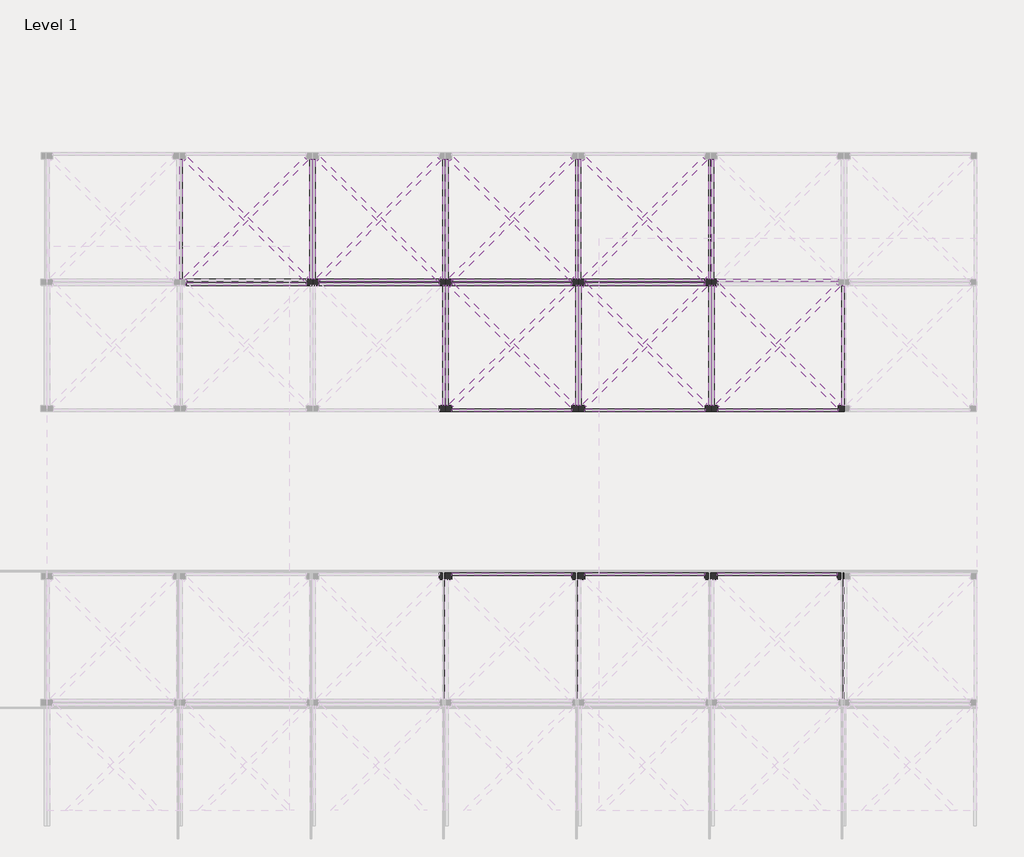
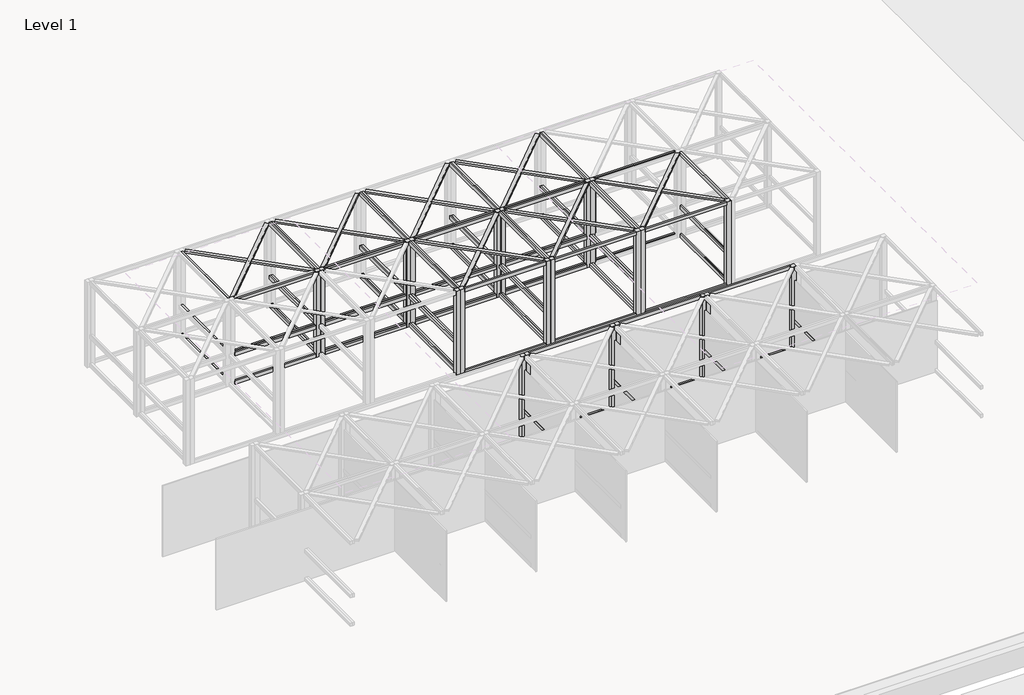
# One storey, part 20 of 32: 102 beams, 30 columns.
"""IFC4 building model written with IfcOpenShell, lengths in millimetres."""

from ifc_helpers import new_model, si_unit, origin, place, context, project, spatial, transform, mapped, element, save
from components import timber_gauged_nz_100_x_50_a05adcf6, timber_gauged_nz_100_x_50_e4b9d06e, timber_gauged_nz_100_x_50_66b63d81, timber_gauged_nz_100_x_50_718b6390, timber_gauged_nz_100_x_50_7774ab14, timber_gauged_nz_100_x_50_be6c7ca1, timber_gauged_nz_100_x_50_6be5a70a, timber_gauged_nz_100_x_50_7b7bee40, timber_gauged_nz_100_x_50_flat_212af973, timber_gauged_nz_100_x_50_flat_8016973c, column_timber_m_114x114_3b5997c2

model = new_model("IFC4")

# Units and contexts
model_context = context("Model", 3, world=origin())
ifc_project = project(units=[si_unit("LENGTHUNIT", "METRE", prefix="MILLI")], contexts=[model_context])

# Site, building, storey
site = spatial("IfcSite", under=ifc_project)
building = spatial("IfcBuilding", under=site)
storey = spatial("IfcBuildingStorey", under=building, Name="Level 1", Elevation=2800.0)

# Beams
placement = place(None, origin())
timber_gauged_nz_100_x_50_shape = timber_gauged_nz_100_x_50_a05adcf6(model_context)
element("IfcBeam", 1, ObjectType="Timber Gauged (NZ) : 100 x 50", at=placement, inside=storey, context=model_context, shape_type="MappedRepresentation", body=[
    mapped(timber_gauged_nz_100_x_50_shape, transform((-72399.6556755, -17511.9011548, 2847.0), x_axis=(1.0, 0.0, 0.0), y_axis=(0.0, 1.0, 0.0), z_axis=(0.0, 0.0, 1.0))),
])
element("IfcBeam", 2, ObjectType="Timber Gauged (NZ) : 100 x 50", at=placement, inside=storey, context=model_context, shape_type="MappedRepresentation", body=[
    mapped(timber_gauged_nz_100_x_50_shape, transform((-69999.6556755, -17511.9011548, 2847.0), x_axis=(1.0, 0.0, 0.0), y_axis=(0.0, 1.0, 0.0), z_axis=(0.0, 0.0, 1.0))),
])
element("IfcBeam", 3, ObjectType="Timber Gauged (NZ) : 100 x 50", at=placement, inside=storey, context=model_context, shape_type="MappedRepresentation", body=[
    mapped(timber_gauged_nz_100_x_50_shape, transform((-67595.3056755, -17511.9011548, 2847.0), x_axis=(1.0, 0.0, 0.0), y_axis=(0.0, 1.0, 0.0), z_axis=(0.0, 0.0, 1.0))),
])
element("IfcBeam", 4, ObjectType="Timber Gauged (NZ) : 100 x 50", at=placement, inside=storey, context=model_context, shape_type="MappedRepresentation", body=[
    mapped(timber_gauged_nz_100_x_50_shape, transform((-65190.9556755, -17511.9011548, 2847.0), x_axis=(1.0, 0.0, 0.0), y_axis=(0.0, 1.0, 0.0), z_axis=(0.0, 0.0, 1.0))),
])
element("IfcBeam", 5, ObjectType="Timber Gauged (NZ) : 100 x 50", at=placement, inside=storey, context=model_context, shape_type="MappedRepresentation", body=[
    mapped(timber_gauged_nz_100_x_50_shape, transform((-67599.6556755, -17582.1175809, 2847.0), x_axis=(-1.0, 0.0, 0.0), y_axis=(0.0, -1.0, 0.0), z_axis=(0.0, 0.0, 1.0))),
])
element("IfcBeam", 6, ObjectType="Timber Gauged (NZ) : 100 x 50", at=placement, inside=storey, context=model_context, shape_type="MappedRepresentation", body=[
    mapped(timber_gauged_nz_100_x_50_shape, transform((-69999.6556755, -17582.1175809, 2847.0), x_axis=(-1.0, 0.0, 0.0), y_axis=(0.0, -1.0, 0.0), z_axis=(0.0, 0.0, 1.0))),
])
element("IfcBeam", 7, ObjectType="Timber Gauged (NZ) : 100 x 50", at=placement, inside=storey, context=model_context, shape_type="MappedRepresentation", body=[
    mapped(timber_gauged_nz_100_x_50_shape, transform((-72399.6556755, -17582.1175809, 2847.0), x_axis=(-1.0, 0.0, 0.0), y_axis=(0.0, -1.0, 0.0), z_axis=(0.0, 0.0, 1.0))),
])
element("IfcBeam", 8, ObjectType="Timber Gauged (NZ) : 100 x 50", at=placement, inside=storey, context=model_context, shape_type="MappedRepresentation", body=[
    mapped(timber_gauged_nz_100_x_50_shape, transform((-74804.0056755, -17582.1175809, 2847.0), x_axis=(-1.0, 0.0, 0.0), y_axis=(0.0, -1.0, 0.0), z_axis=(0.0, 0.0, 1.0))),
])
timber_gauged_nz_100_x_50_2_shape = timber_gauged_nz_100_x_50_e4b9d06e(model_context)
element("IfcBeam", 9, ObjectType="Timber Gauged (NZ) : 100 x 50", at=placement, inside=storey, context=model_context, shape_type="MappedRepresentation", body=[
    mapped(timber_gauged_nz_100_x_50_2_shape, transform((-65190.8306755, -22829.1175809, 2847.0), x_axis=(-1.0, 0.0, 0.0), y_axis=(0.0, -1.0, 0.0), z_axis=(0.0, 0.0, 1.0))),
])
element("IfcBeam", 10, ObjectType="Timber Gauged (NZ) : 100 x 50", at=placement, inside=storey, context=model_context, shape_type="MappedRepresentation", body=[
    mapped(timber_gauged_nz_100_x_50_2_shape, transform((-67586.4806755, -22829.1175809, 2847.0), x_axis=(-1.0, 0.0, 0.0), y_axis=(0.0, -1.0, 0.0), z_axis=(0.0, 0.0, 1.0))),
])
element("IfcBeam", 11, ObjectType="Timber Gauged (NZ) : 100 x 50", at=placement, inside=storey, context=model_context, shape_type="MappedRepresentation", body=[
    mapped(timber_gauged_nz_100_x_50_2_shape, transform((-69986.4806755, -22829.1175809, 2847.0), x_axis=(-1.0, 0.0, 0.0), y_axis=(0.0, -1.0, 0.0), z_axis=(0.0, 0.0, 1.0))),
])
element("IfcBeam", 12, ObjectType="Timber Gauged (NZ) : 100 x 50", at=placement, inside=storey, context=model_context, shape_type="MappedRepresentation", body=[
    mapped(timber_gauged_nz_100_x_50_2_shape, transform((-70012.8306755, -19864.9011548, 2847.0), x_axis=(1.0, 0.0, 0.0), y_axis=(0.0, 1.0, 0.0), z_axis=(0.0, 0.0, 1.0))),
])
element("IfcBeam", 13, ObjectType="Timber Gauged (NZ) : 100 x 50", at=placement, inside=storey, context=model_context, shape_type="MappedRepresentation", body=[
    mapped(timber_gauged_nz_100_x_50_2_shape, transform((-67608.4806755, -19864.9011548, 2847.0), x_axis=(1.0, 0.0, 0.0), y_axis=(0.0, 1.0, 0.0), z_axis=(0.0, 0.0, 1.0))),
])
element("IfcBeam", 14, ObjectType="Timber Gauged (NZ) : 100 x 50", at=placement, inside=storey, context=model_context, shape_type="MappedRepresentation", body=[
    mapped(timber_gauged_nz_100_x_50_2_shape, transform((-65204.1306755, -19864.9011548, 2847.0), x_axis=(1.0, 0.0, 0.0), y_axis=(0.0, 1.0, 0.0), z_axis=(0.0, 0.0, 1.0))),
])
timber_gauged_nz_100_x_50_3_shape = timber_gauged_nz_100_x_50_66b63d81(model_context)
element("IfcBeam", 15, ObjectType="Timber Gauged (NZ) : 100 x 50", at=placement, inside=storey, context=model_context, shape_type="MappedRepresentation", body=[
    mapped(timber_gauged_nz_100_x_50_3_shape, transform((-71176.1556755, -18688.4011548, 2847.0), x_axis=(0.0, -1.0, 0.0), y_axis=(1.0, 0.0, 0.0), z_axis=(0.0, 0.0, 1.0))),
])
element("IfcBeam", 16, ObjectType="Timber Gauged (NZ) : 100 x 50", at=placement, inside=storey, context=model_context, shape_type="MappedRepresentation", body=[
    mapped(timber_gauged_nz_100_x_50_3_shape, transform((-68771.8056755, -18688.4011548, 2847.0), x_axis=(0.0, -1.0, 0.0), y_axis=(1.0, 0.0, 0.0), z_axis=(0.0, 0.0, 1.0))),
])
element("IfcBeam", 17, ObjectType="Timber Gauged (NZ) : 100 x 50", at=placement, inside=storey, context=model_context, shape_type="MappedRepresentation", body=[
    mapped(timber_gauged_nz_100_x_50_3_shape, transform((-66367.4556755, -18688.4011548, 2847.0), x_axis=(0.0, -1.0, 0.0), y_axis=(1.0, 0.0, 0.0), z_axis=(0.0, 0.0, 1.0))),
])
element("IfcBeam", 18, ObjectType="Timber Gauged (NZ) : 100 x 50", at=placement, inside=storey, context=model_context, shape_type="MappedRepresentation", body=[
    mapped(timber_gauged_nz_100_x_50_3_shape, transform((-66423.1556755, -16405.6175809, 2847.0), x_axis=(0.0, 1.0, 0.0), y_axis=(-1.0, 0.0, 0.0), z_axis=(0.0, 0.0, 1.0))),
])
element("IfcBeam", 19, ObjectType="Timber Gauged (NZ) : 100 x 50", at=placement, inside=storey, context=model_context, shape_type="MappedRepresentation", body=[
    mapped(timber_gauged_nz_100_x_50_3_shape, transform((-68823.1556755, -16405.6175809, 2847.0), x_axis=(0.0, 1.0, 0.0), y_axis=(-1.0, 0.0, 0.0), z_axis=(0.0, 0.0, 1.0))),
])
element("IfcBeam", 20, ObjectType="Timber Gauged (NZ) : 100 x 50", at=placement, inside=storey, context=model_context, shape_type="MappedRepresentation", body=[
    mapped(timber_gauged_nz_100_x_50_3_shape, transform((-71223.1556755, -16405.6175809, 2847.0), x_axis=(0.0, 1.0, 0.0), y_axis=(-1.0, 0.0, 0.0), z_axis=(0.0, 0.0, 1.0))),
])
element("IfcBeam", 21, ObjectType="Timber Gauged (NZ) : 100 x 50", at=placement, inside=storey, context=model_context, shape_type="MappedRepresentation", body=[
    mapped(timber_gauged_nz_100_x_50_3_shape, transform((-73627.5056755, -16405.6175809, 2847.0), x_axis=(0.0, 1.0, 0.0), y_axis=(-1.0, 0.0, 0.0), z_axis=(0.0, 0.0, 1.0))),
])
element("IfcBeam", 22, ObjectType="Timber Gauged (NZ) : 100 x 50", at=placement, inside=storey, context=model_context, shape_type="MappedRepresentation", body=[
    mapped(timber_gauged_nz_100_x_50_3_shape, transform((-71223.1556755, -18688.4011548, 2847.0), x_axis=(0.0, -1.0, 0.0), y_axis=(1.0, 0.0, 0.0), z_axis=(0.0, 0.0, 1.0))),
])
element("IfcBeam", 23, ObjectType="Timber Gauged (NZ) : 100 x 50", at=placement, inside=storey, context=model_context, shape_type="MappedRepresentation", body=[
    mapped(timber_gauged_nz_100_x_50_3_shape, transform((-68823.1556755, -18688.4011548, 2847.0), x_axis=(0.0, -1.0, 0.0), y_axis=(1.0, 0.0, 0.0), z_axis=(0.0, 0.0, 1.0))),
])
element("IfcBeam", 24, ObjectType="Timber Gauged (NZ) : 100 x 50", at=placement, inside=storey, context=model_context, shape_type="MappedRepresentation", body=[
    mapped(timber_gauged_nz_100_x_50_3_shape, transform((-66418.8056755, -18688.4011548, 2847.0), x_axis=(0.0, -1.0, 0.0), y_axis=(1.0, 0.0, 0.0), z_axis=(0.0, 0.0, 1.0))),
])
element("IfcBeam", 25, ObjectType="Timber Gauged (NZ) : 100 x 50", at=placement, inside=storey, context=model_context, shape_type="MappedRepresentation", body=[
    mapped(timber_gauged_nz_100_x_50_3_shape, transform((-64014.4556755, -18688.4011548, 2847.0), x_axis=(0.0, -1.0, 0.0), y_axis=(1.0, 0.0, 0.0), z_axis=(0.0, 0.0, 1.0))),
])
element("IfcBeam", 26, ObjectType="Timber Gauged (NZ) : 100 x 50", at=placement, inside=storey, context=model_context, shape_type="MappedRepresentation", body=[
    mapped(timber_gauged_nz_100_x_50_3_shape, transform((-66380.5056755, -16405.6175809, 2847.0), x_axis=(0.0, 1.0, 0.0), y_axis=(-1.0, 0.0, 0.0), z_axis=(0.0, 0.0, 1.0))),
])
element("IfcBeam", 27, ObjectType="Timber Gauged (NZ) : 100 x 50", at=placement, inside=storey, context=model_context, shape_type="MappedRepresentation", body=[
    mapped(timber_gauged_nz_100_x_50_3_shape, transform((-68776.1556755, -16405.6175809, 2847.0), x_axis=(0.0, 1.0, 0.0), y_axis=(-1.0, 0.0, 0.0), z_axis=(0.0, 0.0, 1.0))),
])
element("IfcBeam", 28, ObjectType="Timber Gauged (NZ) : 100 x 50", at=placement, inside=storey, context=model_context, shape_type="MappedRepresentation", body=[
    mapped(timber_gauged_nz_100_x_50_3_shape, transform((-71176.1556755, -16405.6175809, 2847.0), x_axis=(0.0, 1.0, 0.0), y_axis=(-1.0, 0.0, 0.0), z_axis=(0.0, 0.0, 1.0))),
])
element("IfcBeam", 29, ObjectType="Timber Gauged (NZ) : 100 x 50", at=placement, inside=storey, context=model_context, shape_type="MappedRepresentation", body=[
    mapped(timber_gauged_nz_100_x_50_3_shape, transform((-73576.1556755, -16405.6175809, 2847.0), x_axis=(0.0, 1.0, 0.0), y_axis=(-1.0, 0.0, 0.0), z_axis=(0.0, 0.0, 1.0))),
])
element("IfcBeam", 30, ObjectType="Timber Gauged (NZ) : 100 x 50", at=placement, inside=storey, context=model_context, shape_type="MappedRepresentation", body=[
    mapped(timber_gauged_nz_100_x_50_3_shape, transform((-75980.5056755, -16405.6175809, 2847.0), x_axis=(0.0, 1.0, 0.0), y_axis=(-1.0, 0.0, 0.0), z_axis=(0.0, 0.0, 1.0))),
])
timber_gauged_nz_100_x_50_4_shape = timber_gauged_nz_100_x_50_718b6390(model_context)
element("IfcBeam", 31, ObjectType="Timber Gauged (NZ) : 100 x 50", at=placement, inside=storey, context=model_context, shape_type="MappedRepresentation", body=[
    mapped(timber_gauged_nz_100_x_50_4_shape, transform((-74807.5056755, -17511.9011548, 3653.0), x_axis=(1.0, 0.0, 0.0), y_axis=(0.0, 1.0, 0.0), z_axis=(0.0, 0.0, 1.0))),
])
element("IfcBeam", 32, ObjectType="Timber Gauged (NZ) : 100 x 50", at=placement, inside=storey, context=model_context, shape_type="MappedRepresentation", body=[
    mapped(timber_gauged_nz_100_x_50_4_shape, transform((-72407.5056755, -17511.9011548, 5153.0), x_axis=(1.0, 0.0, 0.0), y_axis=(0.0, 1.0, 0.0), z_axis=(0.0, 0.0, 1.0))),
])
element("IfcBeam", 33, ObjectType="Timber Gauged (NZ) : 100 x 50", at=placement, inside=storey, context=model_context, shape_type="MappedRepresentation", body=[
    mapped(timber_gauged_nz_100_x_50_4_shape, transform((-72407.5056755, -17511.9011548, 3653.0), x_axis=(1.0, 0.0, 0.0), y_axis=(0.0, 1.0, 0.0), z_axis=(0.0, 0.0, 1.0))),
])
element("IfcBeam", 34, ObjectType="Timber Gauged (NZ) : 100 x 50", at=placement, inside=storey, context=model_context, shape_type="MappedRepresentation", body=[
    mapped(timber_gauged_nz_100_x_50_4_shape, transform((-70007.5056755, -17511.9011548, 5153.0), x_axis=(1.0, 0.0, 0.0), y_axis=(0.0, 1.0, 0.0), z_axis=(0.0, 0.0, 1.0))),
])
element("IfcBeam", 35, ObjectType="Timber Gauged (NZ) : 100 x 50", at=placement, inside=storey, context=model_context, shape_type="MappedRepresentation", body=[
    mapped(timber_gauged_nz_100_x_50_4_shape, transform((-70007.5056755, -17511.9011548, 3653.0), x_axis=(1.0, 0.0, 0.0), y_axis=(0.0, 1.0, 0.0), z_axis=(0.0, 0.0, 1.0))),
])
element("IfcBeam", 36, ObjectType="Timber Gauged (NZ) : 100 x 50", at=placement, inside=storey, context=model_context, shape_type="MappedRepresentation", body=[
    mapped(timber_gauged_nz_100_x_50_4_shape, transform((-67603.1556755, -17511.9011548, 5153.0), x_axis=(1.0, 0.0, 0.0), y_axis=(0.0, 1.0, 0.0), z_axis=(0.0, 0.0, 1.0))),
])
element("IfcBeam", 37, ObjectType="Timber Gauged (NZ) : 100 x 50", at=placement, inside=storey, context=model_context, shape_type="MappedRepresentation", body=[
    mapped(timber_gauged_nz_100_x_50_4_shape, transform((-67603.1556755, -17511.9011548, 3653.0), x_axis=(1.0, 0.0, 0.0), y_axis=(0.0, 1.0, 0.0), z_axis=(0.0, 0.0, 1.0))),
])
element("IfcBeam", 38, ObjectType="Timber Gauged (NZ) : 100 x 50", at=placement, inside=storey, context=model_context, shape_type="MappedRepresentation", body=[
    mapped(timber_gauged_nz_100_x_50_4_shape, transform((-65198.8056755, -17511.9011548, 5153.0), x_axis=(1.0, 0.0, 0.0), y_axis=(0.0, 1.0, 0.0), z_axis=(0.0, 0.0, 1.0))),
])
element("IfcBeam", 39, ObjectType="Timber Gauged (NZ) : 100 x 50", at=placement, inside=storey, context=model_context, shape_type="MappedRepresentation", body=[
    mapped(timber_gauged_nz_100_x_50_4_shape, transform((-67591.8056755, -17582.1175809, 5153.0), x_axis=(-1.0, 0.0, 0.0), y_axis=(0.0, -1.0, 0.0), z_axis=(0.0, 0.0, 1.0))),
])
element("IfcBeam", 40, ObjectType="Timber Gauged (NZ) : 100 x 50", at=placement, inside=storey, context=model_context, shape_type="MappedRepresentation", body=[
    mapped(timber_gauged_nz_100_x_50_4_shape, transform((-67591.8056755, -17582.1175809, 3653.0), x_axis=(-1.0, 0.0, 0.0), y_axis=(0.0, -1.0, 0.0), z_axis=(0.0, 0.0, 1.0))),
])
element("IfcBeam", 41, ObjectType="Timber Gauged (NZ) : 100 x 50", at=placement, inside=storey, context=model_context, shape_type="MappedRepresentation", body=[
    mapped(timber_gauged_nz_100_x_50_4_shape, transform((-69991.8056755, -17582.1175809, 5153.0), x_axis=(-1.0, 0.0, 0.0), y_axis=(0.0, -1.0, 0.0), z_axis=(0.0, 0.0, 1.0))),
])
element("IfcBeam", 42, ObjectType="Timber Gauged (NZ) : 100 x 50", at=placement, inside=storey, context=model_context, shape_type="MappedRepresentation", body=[
    mapped(timber_gauged_nz_100_x_50_4_shape, transform((-69991.8056755, -17582.1175809, 3653.0), x_axis=(-1.0, 0.0, 0.0), y_axis=(0.0, -1.0, 0.0), z_axis=(0.0, 0.0, 1.0))),
])
element("IfcBeam", 43, ObjectType="Timber Gauged (NZ) : 100 x 50", at=placement, inside=storey, context=model_context, shape_type="MappedRepresentation", body=[
    mapped(timber_gauged_nz_100_x_50_4_shape, transform((-72391.8056755, -17582.1175809, 5153.0), x_axis=(-1.0, 0.0, 0.0), y_axis=(0.0, -1.0, 0.0), z_axis=(0.0, 0.0, 1.0))),
])
element("IfcBeam", 44, ObjectType="Timber Gauged (NZ) : 100 x 50", at=placement, inside=storey, context=model_context, shape_type="MappedRepresentation", body=[
    mapped(timber_gauged_nz_100_x_50_4_shape, transform((-72391.8056755, -17582.1175809, 3653.0), x_axis=(-1.0, 0.0, 0.0), y_axis=(0.0, -1.0, 0.0), z_axis=(0.0, 0.0, 1.0))),
])
element("IfcBeam", 45, ObjectType="Timber Gauged (NZ) : 100 x 50", at=placement, inside=storey, context=model_context, shape_type="MappedRepresentation", body=[
    mapped(timber_gauged_nz_100_x_50_4_shape, transform((-74796.1556755, -17582.1175809, 5153.0), x_axis=(-1.0, 0.0, 0.0), y_axis=(0.0, -1.0, 0.0), z_axis=(0.0, 0.0, 1.0))),
])
element("IfcBeam", 46, ObjectType="Timber Gauged (NZ) : 100 x 50", at=placement, inside=storey, context=model_context, shape_type="MappedRepresentation", body=[
    mapped(timber_gauged_nz_100_x_50_4_shape, transform((-74796.1556755, -17582.1175809, 3653.0), x_axis=(-1.0, 0.0, 0.0), y_axis=(0.0, -1.0, 0.0), z_axis=(0.0, 0.0, 1.0))),
])
timber_gauged_nz_100_x_50_5_shape = timber_gauged_nz_100_x_50_7774ab14(model_context)
element("IfcBeam", 47, ObjectType="Timber Gauged (NZ) : 100 x 50", at=placement, inside=storey, context=model_context, shape_type="MappedRepresentation", body=[
    mapped(timber_gauged_nz_100_x_50_5_shape, transform((-65208.6556755, -22829.1175809, 5153.0), x_axis=(-1.0, 0.0, 0.0), y_axis=(0.0, -1.0, 0.0), z_axis=(0.0, 0.0, 1.0))),
])
element("IfcBeam", 48, ObjectType="Timber Gauged (NZ) : 100 x 50", at=placement, inside=storey, context=model_context, shape_type="MappedRepresentation", body=[
    mapped(timber_gauged_nz_100_x_50_5_shape, transform((-67604.3056755, -22829.1175809, 5153.0), x_axis=(-1.0, 0.0, 0.0), y_axis=(0.0, -1.0, 0.0), z_axis=(0.0, 0.0, 1.0))),
])
element("IfcBeam", 49, ObjectType="Timber Gauged (NZ) : 100 x 50", at=placement, inside=storey, context=model_context, shape_type="MappedRepresentation", body=[
    mapped(timber_gauged_nz_100_x_50_5_shape, transform((-70004.3056755, -22829.1175809, 5153.0), x_axis=(-1.0, 0.0, 0.0), y_axis=(0.0, -1.0, 0.0), z_axis=(0.0, 0.0, 1.0))),
])
element("IfcBeam", 50, ObjectType="Timber Gauged (NZ) : 100 x 50", at=placement, inside=storey, context=model_context, shape_type="MappedRepresentation", body=[
    mapped(timber_gauged_nz_100_x_50_5_shape, transform((-69995.0056755, -19864.9011548, 5153.0), x_axis=(1.0, 0.0, 0.0), y_axis=(0.0, 1.0, 0.0), z_axis=(0.0, 0.0, 1.0))),
])
element("IfcBeam", 51, ObjectType="Timber Gauged (NZ) : 100 x 50", at=placement, inside=storey, context=model_context, shape_type="MappedRepresentation", body=[
    mapped(timber_gauged_nz_100_x_50_5_shape, transform((-67590.6556755, -19864.9011548, 5153.0), x_axis=(1.0, 0.0, 0.0), y_axis=(0.0, 1.0, 0.0), z_axis=(0.0, 0.0, 1.0))),
])
element("IfcBeam", 52, ObjectType="Timber Gauged (NZ) : 100 x 50", at=placement, inside=storey, context=model_context, shape_type="MappedRepresentation", body=[
    mapped(timber_gauged_nz_100_x_50_5_shape, transform((-65186.3056755, -19864.9011548, 5153.0), x_axis=(1.0, 0.0, 0.0), y_axis=(0.0, 1.0, 0.0), z_axis=(0.0, 0.0, 1.0))),
])
timber_gauged_nz_100_x_50_6_shape = timber_gauged_nz_100_x_50_be6c7ca1(model_context)
element("IfcBeam", 53, ObjectType="Timber Gauged (NZ) : 100 x 50", at=placement, inside=storey, context=model_context, shape_type="MappedRepresentation", body=[
    mapped(timber_gauged_nz_100_x_50_6_shape, transform((-71176.1556755, -18619.9011548, 5153.0), x_axis=(0.0, -1.0, 0.0), y_axis=(1.0, 0.0, 0.0), z_axis=(0.0, 0.0, 1.0))),
])
element("IfcBeam", 54, ObjectType="Timber Gauged (NZ) : 100 x 50", at=placement, inside=storey, context=model_context, shape_type="MappedRepresentation", body=[
    mapped(timber_gauged_nz_100_x_50_6_shape, transform((-68771.8056755, -18619.9011548, 5153.0), x_axis=(0.0, -1.0, 0.0), y_axis=(1.0, 0.0, 0.0), z_axis=(0.0, 0.0, 1.0))),
])
element("IfcBeam", 55, ObjectType="Timber Gauged (NZ) : 100 x 50", at=placement, inside=storey, context=model_context, shape_type="MappedRepresentation", body=[
    mapped(timber_gauged_nz_100_x_50_6_shape, transform((-66367.4556755, -18619.9011548, 5153.0), x_axis=(0.0, -1.0, 0.0), y_axis=(1.0, 0.0, 0.0), z_axis=(0.0, 0.0, 1.0))),
])
element("IfcBeam", 56, ObjectType="Timber Gauged (NZ) : 100 x 50", at=placement, inside=storey, context=model_context, shape_type="MappedRepresentation", body=[
    mapped(timber_gauged_nz_100_x_50_6_shape, transform((-66423.1556755, -16474.1175809, 5153.0), x_axis=(0.0, 1.0, 0.0), y_axis=(-1.0, 0.0, 0.0), z_axis=(0.0, 0.0, 1.0))),
])
element("IfcBeam", 57, ObjectType="Timber Gauged (NZ) : 100 x 50", at=placement, inside=storey, context=model_context, shape_type="MappedRepresentation", body=[
    mapped(timber_gauged_nz_100_x_50_6_shape, transform((-68823.1556755, -16474.1175809, 5153.0), x_axis=(0.0, 1.0, 0.0), y_axis=(-1.0, 0.0, 0.0), z_axis=(0.0, 0.0, 1.0))),
])
element("IfcBeam", 58, ObjectType="Timber Gauged (NZ) : 100 x 50", at=placement, inside=storey, context=model_context, shape_type="MappedRepresentation", body=[
    mapped(timber_gauged_nz_100_x_50_6_shape, transform((-71223.1556755, -16474.1175809, 5153.0), x_axis=(0.0, 1.0, 0.0), y_axis=(-1.0, 0.0, 0.0), z_axis=(0.0, 0.0, 1.0))),
])
element("IfcBeam", 59, ObjectType="Timber Gauged (NZ) : 100 x 50", at=placement, inside=storey, context=model_context, shape_type="MappedRepresentation", body=[
    mapped(timber_gauged_nz_100_x_50_6_shape, transform((-73627.5056755, -16474.1175809, 5153.0), x_axis=(0.0, 1.0, 0.0), y_axis=(-1.0, 0.0, 0.0), z_axis=(0.0, 0.0, 1.0))),
])
timber_gauged_nz_100_x_50_7_shape = timber_gauged_nz_100_x_50_6be5a70a(model_context)
element("IfcBeam", 60, ObjectType="Timber Gauged (NZ) : 100 x 50", at=placement, inside=storey, context=model_context, shape_type="MappedRepresentation", body=[
    mapped(timber_gauged_nz_100_x_50_7_shape, transform((-71223.1556755, -18664.9011548, 5153.0), x_axis=(0.0, -1.0, 0.0), y_axis=(1.0, 0.0, 0.0), z_axis=(0.0, 0.0, 1.0))),
])
element("IfcBeam", 61, ObjectType="Timber Gauged (NZ) : 100 x 50", at=placement, inside=storey, context=model_context, shape_type="MappedRepresentation", body=[
    mapped(timber_gauged_nz_100_x_50_7_shape, transform((-68823.1556755, -18664.9011548, 5153.0), x_axis=(0.0, -1.0, 0.0), y_axis=(1.0, 0.0, 0.0), z_axis=(0.0, 0.0, 1.0))),
])
element("IfcBeam", 62, ObjectType="Timber Gauged (NZ) : 100 x 50", at=placement, inside=storey, context=model_context, shape_type="MappedRepresentation", body=[
    mapped(timber_gauged_nz_100_x_50_7_shape, transform((-66418.8056755, -18664.9011548, 5153.0), x_axis=(0.0, -1.0, 0.0), y_axis=(1.0, 0.0, 0.0), z_axis=(0.0, 0.0, 1.0))),
])
element("IfcBeam", 63, ObjectType="Timber Gauged (NZ) : 100 x 50", at=placement, inside=storey, context=model_context, shape_type="MappedRepresentation", body=[
    mapped(timber_gauged_nz_100_x_50_7_shape, transform((-64014.4556755, -18664.9011548, 5153.0), x_axis=(0.0, -1.0, 0.0), y_axis=(1.0, 0.0, 0.0), z_axis=(0.0, 0.0, 1.0))),
])
element("IfcBeam", 64, ObjectType="Timber Gauged (NZ) : 100 x 50", at=placement, inside=storey, context=model_context, shape_type="MappedRepresentation", body=[
    mapped(timber_gauged_nz_100_x_50_7_shape, transform((-66380.5056755, -16429.1175809, 5153.0), x_axis=(0.0, 1.0, 0.0), y_axis=(-1.0, 0.0, 0.0), z_axis=(0.0, 0.0, 1.0))),
])
element("IfcBeam", 65, ObjectType="Timber Gauged (NZ) : 100 x 50", at=placement, inside=storey, context=model_context, shape_type="MappedRepresentation", body=[
    mapped(timber_gauged_nz_100_x_50_7_shape, transform((-68776.1556755, -16429.1175809, 5153.0), x_axis=(0.0, 1.0, 0.0), y_axis=(-1.0, 0.0, 0.0), z_axis=(0.0, 0.0, 1.0))),
])
element("IfcBeam", 66, ObjectType="Timber Gauged (NZ) : 100 x 50", at=placement, inside=storey, context=model_context, shape_type="MappedRepresentation", body=[
    mapped(timber_gauged_nz_100_x_50_7_shape, transform((-71176.1556755, -16429.1175809, 5153.0), x_axis=(0.0, 1.0, 0.0), y_axis=(-1.0, 0.0, 0.0), z_axis=(0.0, 0.0, 1.0))),
])
element("IfcBeam", 67, ObjectType="Timber Gauged (NZ) : 100 x 50", at=placement, inside=storey, context=model_context, shape_type="MappedRepresentation", body=[
    mapped(timber_gauged_nz_100_x_50_7_shape, transform((-73576.1556755, -16429.1175809, 5153.0), x_axis=(0.0, 1.0, 0.0), y_axis=(-1.0, 0.0, 0.0), z_axis=(0.0, 0.0, 1.0))),
])
element("IfcBeam", 68, ObjectType="Timber Gauged (NZ) : 100 x 50", at=placement, inside=storey, context=model_context, shape_type="MappedRepresentation", body=[
    mapped(timber_gauged_nz_100_x_50_7_shape, transform((-75980.5056755, -16429.1175809, 5153.0), x_axis=(0.0, 1.0, 0.0), y_axis=(-1.0, 0.0, 0.0), z_axis=(0.0, 0.0, 1.0))),
])
timber_gauged_nz_100_x_50_8_shape = timber_gauged_nz_100_x_50_7b7bee40(model_context)
element("IfcBeam", 69, ObjectType="Timber Gauged (NZ) : 100 x 50", at=placement, inside=storey, context=model_context, shape_type="MappedRepresentation", body=[
    mapped(timber_gauged_nz_100_x_50_8_shape, transform((-64027.5056755, -23949.1175809, 3653.0), x_axis=(0.0, 1.0, 0.0), y_axis=(-1.0, 0.0, 0.0), z_axis=(0.0, 0.0, 1.0))),
])
element("IfcBeam", 70, ObjectType="Timber Gauged (NZ) : 100 x 50", at=placement, inside=storey, context=model_context, shape_type="MappedRepresentation", body=[
    mapped(timber_gauged_nz_100_x_50_8_shape, transform((-66423.1556755, -23949.1175809, 3653.0), x_axis=(0.0, 1.0, 0.0), y_axis=(-1.0, 0.0, 0.0), z_axis=(0.0, 0.0, 1.0))),
])
element("IfcBeam", 71, ObjectType="Timber Gauged (NZ) : 100 x 50", at=placement, inside=storey, context=model_context, shape_type="MappedRepresentation", body=[
    mapped(timber_gauged_nz_100_x_50_8_shape, transform((-68823.1556755, -23949.1175809, 3653.0), x_axis=(0.0, 1.0, 0.0), y_axis=(-1.0, 0.0, 0.0), z_axis=(0.0, 0.0, 1.0))),
])
element("IfcBeam", 72, ObjectType="Timber Gauged (NZ) : 100 x 50", at=placement, inside=storey, context=model_context, shape_type="MappedRepresentation", body=[
    mapped(timber_gauged_nz_100_x_50_8_shape, transform((-71223.1556755, -23949.1175809, 3653.0), x_axis=(0.0, 1.0, 0.0), y_axis=(-1.0, 0.0, 0.0), z_axis=(0.0, 0.0, 1.0))),
])
element("IfcBeam", 73, ObjectType="Timber Gauged (NZ) : 100 x 50", at=placement, inside=storey, context=model_context, shape_type="MappedRepresentation", body=[
    mapped(timber_gauged_nz_100_x_50_8_shape, transform((-71176.1556755, -18744.9011548, 3653.0), x_axis=(0.0, -1.0, 0.0), y_axis=(1.0, 0.0, 0.0), z_axis=(0.0, 0.0, 1.0))),
])
element("IfcBeam", 74, ObjectType="Timber Gauged (NZ) : 100 x 50", at=placement, inside=storey, context=model_context, shape_type="MappedRepresentation", body=[
    mapped(timber_gauged_nz_100_x_50_8_shape, transform((-68771.8056755, -18744.9011548, 3653.0), x_axis=(0.0, -1.0, 0.0), y_axis=(1.0, 0.0, 0.0), z_axis=(0.0, 0.0, 1.0))),
])
element("IfcBeam", 75, ObjectType="Timber Gauged (NZ) : 100 x 50", at=placement, inside=storey, context=model_context, shape_type="MappedRepresentation", body=[
    mapped(timber_gauged_nz_100_x_50_8_shape, transform((-66367.4556755, -18744.9011548, 3653.0), x_axis=(0.0, -1.0, 0.0), y_axis=(1.0, 0.0, 0.0), z_axis=(0.0, 0.0, 1.0))),
])
element("IfcBeam", 76, ObjectType="Timber Gauged (NZ) : 100 x 50", at=placement, inside=storey, context=model_context, shape_type="MappedRepresentation", body=[
    mapped(timber_gauged_nz_100_x_50_8_shape, transform((-66423.1556755, -16349.1175809, 3653.0), x_axis=(0.0, 1.0, 0.0), y_axis=(-1.0, 0.0, 0.0), z_axis=(0.0, 0.0, 1.0))),
])
element("IfcBeam", 77, ObjectType="Timber Gauged (NZ) : 100 x 50", at=placement, inside=storey, context=model_context, shape_type="MappedRepresentation", body=[
    mapped(timber_gauged_nz_100_x_50_8_shape, transform((-68823.1556755, -16349.1175809, 3653.0), x_axis=(0.0, 1.0, 0.0), y_axis=(-1.0, 0.0, 0.0), z_axis=(0.0, 0.0, 1.0))),
])
element("IfcBeam", 78, ObjectType="Timber Gauged (NZ) : 100 x 50", at=placement, inside=storey, context=model_context, shape_type="MappedRepresentation", body=[
    mapped(timber_gauged_nz_100_x_50_8_shape, transform((-71223.1556755, -16349.1175809, 3653.0), x_axis=(0.0, 1.0, 0.0), y_axis=(-1.0, 0.0, 0.0), z_axis=(0.0, 0.0, 1.0))),
])
element("IfcBeam", 79, ObjectType="Timber Gauged (NZ) : 100 x 50", at=placement, inside=storey, context=model_context, shape_type="MappedRepresentation", body=[
    mapped(timber_gauged_nz_100_x_50_8_shape, transform((-73627.5056755, -16349.1175809, 3653.0), x_axis=(0.0, 1.0, 0.0), y_axis=(-1.0, 0.0, 0.0), z_axis=(0.0, 0.0, 1.0))),
])
element("IfcBeam", 80, ObjectType="Timber Gauged (NZ) : 100 x 50", at=placement, inside=storey, context=model_context, shape_type="MappedRepresentation", body=[
    mapped(timber_gauged_nz_100_x_50_7_shape, transform((-71223.1556755, -18664.7011548, 3653.0), x_axis=(0.0, -1.0, 0.0), y_axis=(1.0, 0.0, 0.0), z_axis=(0.0, 0.0, 1.0))),
])
element("IfcBeam", 81, ObjectType="Timber Gauged (NZ) : 100 x 50", at=placement, inside=storey, context=model_context, shape_type="MappedRepresentation", body=[
    mapped(timber_gauged_nz_100_x_50_7_shape, transform((-68823.1556755, -18664.7011548, 3653.0), x_axis=(0.0, -1.0, 0.0), y_axis=(1.0, 0.0, 0.0), z_axis=(0.0, 0.0, 1.0))),
])
element("IfcBeam", 82, ObjectType="Timber Gauged (NZ) : 100 x 50", at=placement, inside=storey, context=model_context, shape_type="MappedRepresentation", body=[
    mapped(timber_gauged_nz_100_x_50_7_shape, transform((-66418.8056755, -18664.7011548, 3653.0), x_axis=(0.0, -1.0, 0.0), y_axis=(1.0, 0.0, 0.0), z_axis=(0.0, 0.0, 1.0))),
])
element("IfcBeam", 83, ObjectType="Timber Gauged (NZ) : 100 x 50", at=placement, inside=storey, context=model_context, shape_type="MappedRepresentation", body=[
    mapped(timber_gauged_nz_100_x_50_7_shape, transform((-64014.4556755, -18664.7011548, 3653.0), x_axis=(0.0, -1.0, 0.0), y_axis=(1.0, 0.0, 0.0), z_axis=(0.0, 0.0, 1.0))),
])
element("IfcBeam", 84, ObjectType="Timber Gauged (NZ) : 100 x 50", at=placement, inside=storey, context=model_context, shape_type="MappedRepresentation", body=[
    mapped(timber_gauged_nz_100_x_50_7_shape, transform((-66380.5056755, -16429.3175809, 3653.0), x_axis=(0.0, 1.0, 0.0), y_axis=(-1.0, 0.0, 0.0), z_axis=(0.0, 0.0, 1.0))),
])
element("IfcBeam", 85, ObjectType="Timber Gauged (NZ) : 100 x 50", at=placement, inside=storey, context=model_context, shape_type="MappedRepresentation", body=[
    mapped(timber_gauged_nz_100_x_50_7_shape, transform((-68776.1556755, -16429.3175809, 3653.0), x_axis=(0.0, 1.0, 0.0), y_axis=(-1.0, 0.0, 0.0), z_axis=(0.0, 0.0, 1.0))),
])
element("IfcBeam", 86, ObjectType="Timber Gauged (NZ) : 100 x 50", at=placement, inside=storey, context=model_context, shape_type="MappedRepresentation", body=[
    mapped(timber_gauged_nz_100_x_50_7_shape, transform((-71176.1556755, -16429.3175809, 3653.0), x_axis=(0.0, 1.0, 0.0), y_axis=(-1.0, 0.0, 0.0), z_axis=(0.0, 0.0, 1.0))),
])
element("IfcBeam", 87, ObjectType="Timber Gauged (NZ) : 100 x 50", at=placement, inside=storey, context=model_context, shape_type="MappedRepresentation", body=[
    mapped(timber_gauged_nz_100_x_50_7_shape, transform((-73576.1556755, -16429.3175809, 3653.0), x_axis=(0.0, 1.0, 0.0), y_axis=(-1.0, 0.0, 0.0), z_axis=(0.0, 0.0, 1.0))),
])
element("IfcBeam", 88, ObjectType="Timber Gauged (NZ) : 100 x 50", at=placement, inside=storey, context=model_context, shape_type="MappedRepresentation", body=[
    mapped(timber_gauged_nz_100_x_50_7_shape, transform((-75980.5056755, -16429.3175809, 3653.0), x_axis=(0.0, 1.0, 0.0), y_axis=(-1.0, 0.0, 0.0), z_axis=(0.0, 0.0, 1.0))),
])
timber_gauged_nz_100_x_50_flat_shape = timber_gauged_nz_100_x_50_flat_212af973(model_context)
element("IfcBeam", 89, ObjectType="Timber Gauged (NZ) : 100 x 50 Flat", at=placement, inside=storey, context=model_context, shape_type="MappedRepresentation", body=[
    mapped(timber_gauged_nz_100_x_50_flat_shape, transform((-69995.4150144, -18683.5138698, 5176.5), x_axis=(0.707106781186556, 0.7071067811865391, 0.0), y_axis=(-0.7071067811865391, 0.707106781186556, 0.0), z_axis=(0.0, 0.0, 1.0))),
])
element("IfcBeam", 90, ObjectType="Timber Gauged (NZ) : 100 x 50 Flat", at=placement, inside=storey, context=model_context, shape_type="MappedRepresentation", body=[
    mapped(timber_gauged_nz_100_x_50_flat_shape, transform((-67591.0650144, -18683.5138698, 5176.5), x_axis=(0.707106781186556, 0.7071067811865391, 0.0), y_axis=(-0.7071067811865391, 0.707106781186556, 0.0), z_axis=(0.0, 0.0, 1.0))),
])
element("IfcBeam", 91, ObjectType="Timber Gauged (NZ) : 100 x 50 Flat", at=placement, inside=storey, context=model_context, shape_type="MappedRepresentation", body=[
    mapped(timber_gauged_nz_100_x_50_flat_shape, transform((-65186.7150144, -18683.5138698, 5176.5), x_axis=(0.707106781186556, 0.7071067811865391, 0.0), y_axis=(-0.7071067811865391, 0.707106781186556, 0.0), z_axis=(0.0, 0.0, 1.0))),
])
element("IfcBeam", 92, ObjectType="Timber Gauged (NZ) : 100 x 50 Flat", at=placement, inside=storey, context=model_context, shape_type="MappedRepresentation", body=[
    mapped(timber_gauged_nz_100_x_50_flat_shape, transform((-67603.8963365, -16410.5048659, 5176.5), x_axis=(-0.7071067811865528, -0.7071067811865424, 0.0), y_axis=(0.7071067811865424, -0.7071067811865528, 0.0), z_axis=(0.0, 0.0, 1.0))),
])
element("IfcBeam", 93, ObjectType="Timber Gauged (NZ) : 100 x 50 Flat", at=placement, inside=storey, context=model_context, shape_type="MappedRepresentation", body=[
    mapped(timber_gauged_nz_100_x_50_flat_shape, transform((-70003.8963365, -16410.5048659, 5176.5), x_axis=(-0.7071067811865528, -0.7071067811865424, 0.0), y_axis=(0.7071067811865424, -0.7071067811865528, 0.0), z_axis=(0.0, 0.0, 1.0))),
])
element("IfcBeam", 94, ObjectType="Timber Gauged (NZ) : 100 x 50 Flat", at=placement, inside=storey, context=model_context, shape_type="MappedRepresentation", body=[
    mapped(timber_gauged_nz_100_x_50_flat_shape, transform((-72403.8963365, -16410.5048659, 5176.5), x_axis=(-0.7071067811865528, -0.7071067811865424, 0.0), y_axis=(0.7071067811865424, -0.7071067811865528, 0.0), z_axis=(0.0, 0.0, 1.0))),
])
element("IfcBeam", 95, ObjectType="Timber Gauged (NZ) : 100 x 50 Flat", at=placement, inside=storey, context=model_context, shape_type="MappedRepresentation", body=[
    mapped(timber_gauged_nz_100_x_50_flat_shape, transform((-74808.2463365, -16410.5048659, 5176.5), x_axis=(-0.7071067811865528, -0.7071067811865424, 0.0), y_axis=(0.7071067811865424, -0.7071067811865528, 0.0), z_axis=(0.0, 0.0, 1.0))),
])
timber_gauged_nz_100_x_50_flat_2_shape = timber_gauged_nz_100_x_50_flat_8016973c(model_context)
element("IfcBeam", 96, ObjectType="Timber Gauged (NZ) : 100 x 50 Flat", at=placement, inside=storey, context=model_context, shape_type="MappedRepresentation", body=[
    mapped(timber_gauged_nz_100_x_50_flat_2_shape, transform((-70049.1551298, -18638.2590359, 5176.5), x_axis=(0.7071067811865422, -0.7071067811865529, 0.0), y_axis=(0.7071067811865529, 0.7071067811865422, 0.0), z_axis=(0.0, 0.0, 1.0))),
])
element("IfcBeam", 97, ObjectType="Timber Gauged (NZ) : 100 x 50 Flat", at=placement, inside=storey, context=model_context, shape_type="MappedRepresentation", body=[
    mapped(timber_gauged_nz_100_x_50_flat_2_shape, transform((-67644.8051298, -18638.2590359, 5176.5), x_axis=(0.7071067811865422, -0.7071067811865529, 0.0), y_axis=(0.7071067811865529, 0.7071067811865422, 0.0), z_axis=(0.0, 0.0, 1.0))),
])
element("IfcBeam", 98, ObjectType="Timber Gauged (NZ) : 100 x 50 Flat", at=placement, inside=storey, context=model_context, shape_type="MappedRepresentation", body=[
    mapped(timber_gauged_nz_100_x_50_flat_2_shape, transform((-65240.4551298, -18638.2590359, 5176.5), x_axis=(0.7071067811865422, -0.7071067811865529, 0.0), y_axis=(0.7071067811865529, 0.7071067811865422, 0.0), z_axis=(0.0, 0.0, 1.0))),
])
element("IfcBeam", 99, ObjectType="Timber Gauged (NZ) : 100 x 50 Flat", at=placement, inside=storey, context=model_context, shape_type="MappedRepresentation", body=[
    mapped(timber_gauged_nz_100_x_50_flat_2_shape, transform((-67550.1562211, -16455.7596999, 5176.5), x_axis=(-0.7071067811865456, 0.7071067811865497, 0.0), y_axis=(-0.7071067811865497, -0.7071067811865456, 0.0), z_axis=(0.0, 0.0, 1.0))),
])
element("IfcBeam", 100, ObjectType="Timber Gauged (NZ) : 100 x 50 Flat", at=placement, inside=storey, context=model_context, shape_type="MappedRepresentation", body=[
    mapped(timber_gauged_nz_100_x_50_flat_2_shape, transform((-69950.1562211, -16455.7596999, 5176.5), x_axis=(-0.7071067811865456, 0.7071067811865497, 0.0), y_axis=(-0.7071067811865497, -0.7071067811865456, 0.0), z_axis=(0.0, 0.0, 1.0))),
])
element("IfcBeam", 101, ObjectType="Timber Gauged (NZ) : 100 x 50 Flat", at=placement, inside=storey, context=model_context, shape_type="MappedRepresentation", body=[
    mapped(timber_gauged_nz_100_x_50_flat_2_shape, transform((-72350.1562211, -16455.7596999, 5176.5), x_axis=(-0.7071067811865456, 0.7071067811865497, 0.0), y_axis=(-0.7071067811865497, -0.7071067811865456, 0.0), z_axis=(0.0, 0.0, 1.0))),
])
element("IfcBeam", 102, ObjectType="Timber Gauged (NZ) : 100 x 50 Flat", at=placement, inside=storey, context=model_context, shape_type="MappedRepresentation", body=[
    mapped(timber_gauged_nz_100_x_50_flat_2_shape, transform((-74754.5062211, -16455.7596999, 5176.5), x_axis=(-0.7071067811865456, 0.7071067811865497, 0.0), y_axis=(-0.7071067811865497, -0.7071067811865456, 0.0), z_axis=(0.0, 0.0, 1.0))),
])

# Columns
column_timber_m_114x114_shape = column_timber_m_114x114_3b5997c2(model_context)
element("IfcColumn", 103, ObjectType="Column Timber (M) : 114x114", at=placement, inside=storey, context=model_context, shape_type="MappedRepresentation", body=[
    mapped(column_timber_m_114x114_shape, transform((-64061.1556755, -22862.7675809, 0.0), x_axis=(-1.0, 0.0, 0.0), y_axis=(0.0, -1.0, 0.0), z_axis=(0.0, 0.0, 1.0))),
])
element("IfcColumn", 104, ObjectType="Column Timber (M) : 114x114", at=placement, inside=storey, context=model_context, shape_type="MappedRepresentation", body=[
    mapped(column_timber_m_114x114_shape, transform((-66346.8556755, -22862.7675809, 0.0), x_axis=(-1.0, 0.0, 0.0), y_axis=(0.0, -1.0, 0.0), z_axis=(0.0, 0.0, 1.0))),
])
element("IfcColumn", 105, ObjectType="Column Timber (M) : 114x114", at=placement, inside=storey, context=model_context, shape_type="MappedRepresentation", body=[
    mapped(column_timber_m_114x114_shape, transform((-66456.8056755, -22862.7675809, 0.0), x_axis=(-1.0, 0.0, 0.0), y_axis=(0.0, -1.0, 0.0), z_axis=(0.0, 0.0, 1.0))),
])
element("IfcColumn", 106, ObjectType="Column Timber (M) : 114x114", at=placement, inside=storey, context=model_context, shape_type="MappedRepresentation", body=[
    mapped(column_timber_m_114x114_shape, transform((-68742.5056755, -22862.7675809, 0.0), x_axis=(-1.0, 0.0, 0.0), y_axis=(0.0, -1.0, 0.0), z_axis=(0.0, 0.0, 1.0))),
])
element("IfcColumn", 107, ObjectType="Column Timber (M) : 114x114", at=placement, inside=storey, context=model_context, shape_type="MappedRepresentation", body=[
    mapped(column_timber_m_114x114_shape, transform((-68856.8056755, -22862.7675809, 0.0), x_axis=(-1.0, 0.0, 0.0), y_axis=(0.0, -1.0, 0.0), z_axis=(0.0, 0.0, 1.0))),
])
element("IfcColumn", 108, ObjectType="Column Timber (M) : 114x114", at=placement, inside=storey, context=model_context, shape_type="MappedRepresentation", body=[
    mapped(column_timber_m_114x114_shape, transform((-71142.5056755, -22862.7675809, 0.0), x_axis=(-1.0, 0.0, 0.0), y_axis=(0.0, -1.0, 0.0), z_axis=(0.0, 0.0, 1.0))),
])
element("IfcColumn", 109, ObjectType="Column Timber (M) : 114x114", at=placement, inside=storey, context=model_context, shape_type="MappedRepresentation", body=[
    mapped(column_timber_m_114x114_shape, transform((-71256.8056755, -22862.7675809, 0.0), x_axis=(-1.0, 0.0, 0.0), y_axis=(0.0, -1.0, 0.0), z_axis=(0.0, 0.0, 1.0))),
])
element("IfcColumn", 110, ObjectType="Column Timber (M) : 114x114", at=placement, inside=storey, context=model_context, shape_type="MappedRepresentation", body=[
    mapped(column_timber_m_114x114_shape, transform((-73656.8056755, -17545.5511548, 0.0), x_axis=(1.0, 0.0, 0.0), y_axis=(0.0, 1.0, 0.0), z_axis=(0.0, 0.0, 1.0))),
])
element("IfcColumn", 111, ObjectType="Column Timber (M) : 114x114", at=placement, inside=storey, context=model_context, shape_type="MappedRepresentation", body=[
    mapped(column_timber_m_114x114_shape, transform((-73542.5056755, -17545.5511548, 0.0), x_axis=(1.0, 0.0, 0.0), y_axis=(0.0, 1.0, 0.0), z_axis=(0.0, 0.0, 1.0))),
])
element("IfcColumn", 112, ObjectType="Column Timber (M) : 114x114", at=placement, inside=storey, context=model_context, shape_type="MappedRepresentation", body=[
    mapped(column_timber_m_114x114_shape, transform((-71256.8056755, -17545.5511548, 0.0), x_axis=(1.0, 0.0, 0.0), y_axis=(0.0, 1.0, 0.0), z_axis=(0.0, 0.0, 1.0))),
])
element("IfcColumn", 113, ObjectType="Column Timber (M) : 114x114", at=placement, inside=storey, context=model_context, shape_type="MappedRepresentation", body=[
    mapped(column_timber_m_114x114_shape, transform((-71256.8056755, -19831.2511548, 0.0), x_axis=(1.0, 0.0, 0.0), y_axis=(0.0, 1.0, 0.0), z_axis=(0.0, 0.0, 1.0))),
])
element("IfcColumn", 114, ObjectType="Column Timber (M) : 114x114", at=placement, inside=storey, context=model_context, shape_type="MappedRepresentation", body=[
    mapped(column_timber_m_114x114_shape, transform((-71142.5056755, -19831.2511548, 0.0), x_axis=(1.0, 0.0, 0.0), y_axis=(0.0, 1.0, 0.0), z_axis=(0.0, 0.0, 1.0))),
])
element("IfcColumn", 115, ObjectType="Column Timber (M) : 114x114", at=placement, inside=storey, context=model_context, shape_type="MappedRepresentation", body=[
    mapped(column_timber_m_114x114_shape, transform((-71142.5056755, -17545.5511548, 0.0), x_axis=(1.0, 0.0, 0.0), y_axis=(0.0, 1.0, 0.0), z_axis=(0.0, 0.0, 1.0))),
])
element("IfcColumn", 116, ObjectType="Column Timber (M) : 114x114", at=placement, inside=storey, context=model_context, shape_type="MappedRepresentation", body=[
    mapped(column_timber_m_114x114_shape, transform((-68856.8056755, -17545.5511548, 0.0), x_axis=(1.0, 0.0, 0.0), y_axis=(0.0, 1.0, 0.0), z_axis=(0.0, 0.0, 1.0))),
])
element("IfcColumn", 117, ObjectType="Column Timber (M) : 114x114", at=placement, inside=storey, context=model_context, shape_type="MappedRepresentation", body=[
    mapped(column_timber_m_114x114_shape, transform((-68856.8056755, -19831.2511548, 0.0), x_axis=(1.0, 0.0, 0.0), y_axis=(0.0, 1.0, 0.0), z_axis=(0.0, 0.0, 1.0))),
])
element("IfcColumn", 118, ObjectType="Column Timber (M) : 114x114", at=placement, inside=storey, context=model_context, shape_type="MappedRepresentation", body=[
    mapped(column_timber_m_114x114_shape, transform((-68738.1556755, -19831.2511548, 0.0), x_axis=(1.0, 0.0, 0.0), y_axis=(0.0, 1.0, 0.0), z_axis=(0.0, 0.0, 1.0))),
])
element("IfcColumn", 119, ObjectType="Column Timber (M) : 114x114", at=placement, inside=storey, context=model_context, shape_type="MappedRepresentation", body=[
    mapped(column_timber_m_114x114_shape, transform((-68738.1556755, -17545.5511548, 0.0), x_axis=(1.0, 0.0, 0.0), y_axis=(0.0, 1.0, 0.0), z_axis=(0.0, 0.0, 1.0))),
])
element("IfcColumn", 120, ObjectType="Column Timber (M) : 114x114", at=placement, inside=storey, context=model_context, shape_type="MappedRepresentation", body=[
    mapped(column_timber_m_114x114_shape, transform((-66452.4556755, -17545.5511548, 0.0), x_axis=(1.0, 0.0, 0.0), y_axis=(0.0, 1.0, 0.0), z_axis=(0.0, 0.0, 1.0))),
])
element("IfcColumn", 121, ObjectType="Column Timber (M) : 114x114", at=placement, inside=storey, context=model_context, shape_type="MappedRepresentation", body=[
    mapped(column_timber_m_114x114_shape, transform((-66452.4556755, -19831.2511548, 0.0), x_axis=(1.0, 0.0, 0.0), y_axis=(0.0, 1.0, 0.0), z_axis=(0.0, 0.0, 1.0))),
])
element("IfcColumn", 122, ObjectType="Column Timber (M) : 114x114", at=placement, inside=storey, context=model_context, shape_type="MappedRepresentation", body=[
    mapped(column_timber_m_114x114_shape, transform((-66333.8056755, -19831.2511548, 0.0), x_axis=(1.0, 0.0, 0.0), y_axis=(0.0, 1.0, 0.0), z_axis=(0.0, 0.0, 1.0))),
])
element("IfcColumn", 123, ObjectType="Column Timber (M) : 114x114", at=placement, inside=storey, context=model_context, shape_type="MappedRepresentation", body=[
    mapped(column_timber_m_114x114_shape, transform((-66333.8056755, -17545.5511548, 0.0), x_axis=(1.0, 0.0, 0.0), y_axis=(0.0, 1.0, 0.0), z_axis=(0.0, 0.0, 1.0))),
])
element("IfcColumn", 124, ObjectType="Column Timber (M) : 114x114", at=placement, inside=storey, context=model_context, shape_type="MappedRepresentation", body=[
    mapped(column_timber_m_114x114_shape, transform((-64048.1056755, -19831.2511548, 0.0), x_axis=(1.0, 0.0, 0.0), y_axis=(0.0, 1.0, 0.0), z_axis=(0.0, 0.0, 1.0))),
])
element("IfcColumn", 125, ObjectType="Column Timber (M) : 114x114", at=placement, inside=storey, context=model_context, shape_type="MappedRepresentation", body=[
    mapped(column_timber_m_114x114_shape, transform((-66346.8556755, -17548.4675809, 0.0), x_axis=(-1.0, 0.0, 0.0), y_axis=(0.0, -1.0, 0.0), z_axis=(0.0, 0.0, 1.0))),
])
element("IfcColumn", 126, ObjectType="Column Timber (M) : 114x114", at=placement, inside=storey, context=model_context, shape_type="MappedRepresentation", body=[
    mapped(column_timber_m_114x114_shape, transform((-66456.8056755, -17548.4675809, 0.0), x_axis=(-1.0, 0.0, 0.0), y_axis=(0.0, -1.0, 0.0), z_axis=(0.0, 0.0, 1.0))),
])
element("IfcColumn", 127, ObjectType="Column Timber (M) : 114x114", at=placement, inside=storey, context=model_context, shape_type="MappedRepresentation", body=[
    mapped(column_timber_m_114x114_shape, transform((-68742.5056755, -17548.4675809, 0.0), x_axis=(-1.0, 0.0, 0.0), y_axis=(0.0, -1.0, 0.0), z_axis=(0.0, 0.0, 1.0))),
])
element("IfcColumn", 128, ObjectType="Column Timber (M) : 114x114", at=placement, inside=storey, context=model_context, shape_type="MappedRepresentation", body=[
    mapped(column_timber_m_114x114_shape, transform((-68856.8056755, -17548.4675809, 0.0), x_axis=(-1.0, 0.0, 0.0), y_axis=(0.0, -1.0, 0.0), z_axis=(0.0, 0.0, 1.0))),
])
element("IfcColumn", 129, ObjectType="Column Timber (M) : 114x114", at=placement, inside=storey, context=model_context, shape_type="MappedRepresentation", body=[
    mapped(column_timber_m_114x114_shape, transform((-71142.5056755, -17548.4675809, 0.0), x_axis=(-1.0, 0.0, 0.0), y_axis=(0.0, -1.0, 0.0), z_axis=(0.0, 0.0, 1.0))),
])
element("IfcColumn", 130, ObjectType="Column Timber (M) : 114x114", at=placement, inside=storey, context=model_context, shape_type="MappedRepresentation", body=[
    mapped(column_timber_m_114x114_shape, transform((-71256.8056755, -17548.4675809, 0.0), x_axis=(-1.0, 0.0, 0.0), y_axis=(0.0, -1.0, 0.0), z_axis=(0.0, 0.0, 1.0))),
])
element("IfcColumn", 131, ObjectType="Column Timber (M) : 114x114", at=placement, inside=storey, context=model_context, shape_type="MappedRepresentation", body=[
    mapped(column_timber_m_114x114_shape, transform((-73542.5056755, -17548.4675809, 0.0), x_axis=(-1.0, 0.0, 0.0), y_axis=(0.0, -1.0, 0.0), z_axis=(0.0, 0.0, 1.0))),
])
element("IfcColumn", 132, ObjectType="Column Timber (M) : 114x114", at=placement, inside=storey, context=model_context, shape_type="MappedRepresentation", body=[
    mapped(column_timber_m_114x114_shape, transform((-73661.1556755, -17548.4675809, 0.0), x_axis=(-1.0, 0.0, 0.0), y_axis=(0.0, -1.0, 0.0), z_axis=(0.0, 0.0, 1.0))),
])

save(model, "model.ifc")
